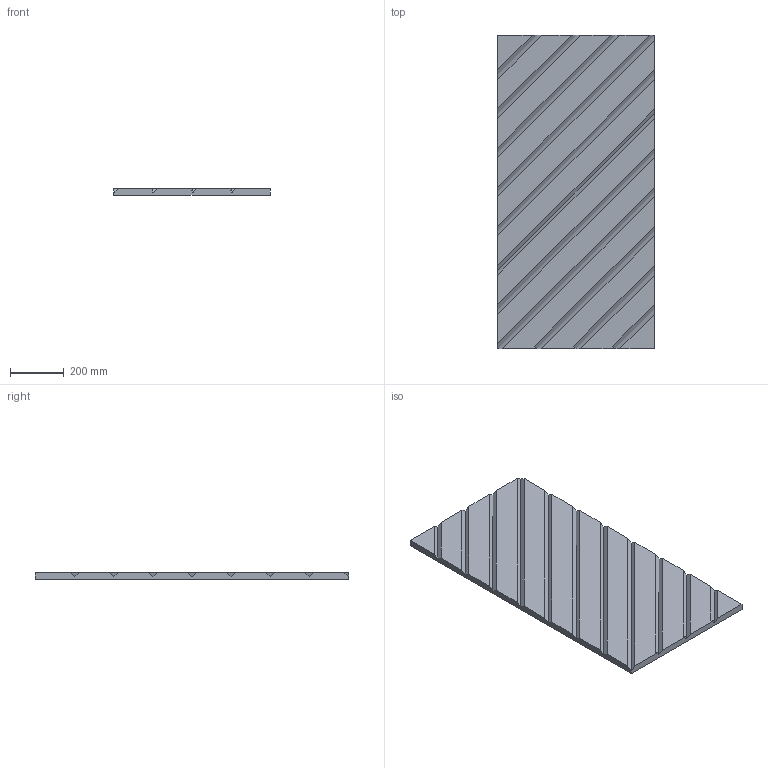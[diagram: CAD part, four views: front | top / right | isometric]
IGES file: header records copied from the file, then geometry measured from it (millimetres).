
Start section: SolidWorks IGES file using analytic representation for surfaces
Global section: file name: \\vmware-host\Shared Folders\Desktop\BAUX\diagonal.IGS; native system: SolidWorks 2014; preprocessor: SolidWorks 2014; author: iMac 3; date: 150121.181744; units: millimetre
Bounding box: 580 x 1160 x 25 mm (x, y, z)
Surface area: 1496029.2 mm2 (no closed solid volume)
Topology: 0 solids, 0 shells, 42 faces, 230 edges, 230 vertices
Faces by surface type: bspline 42
